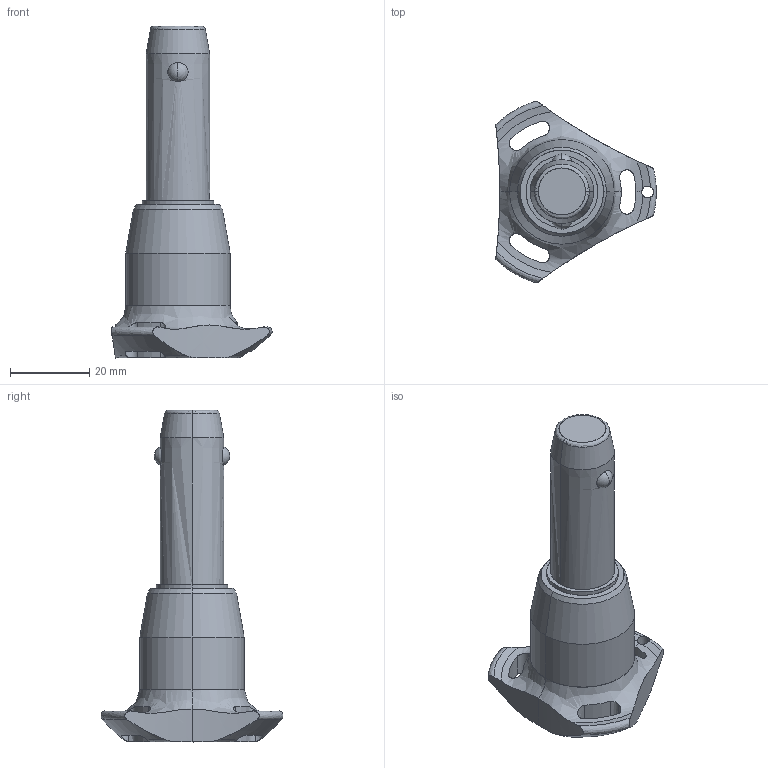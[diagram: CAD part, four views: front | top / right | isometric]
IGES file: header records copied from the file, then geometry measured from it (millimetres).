
Start section: SolidWorks IGES file using analytic representation for surfaces
Global section: file name: C:\Users\ianosborn\Desktop\QR1734_v2\QR1734_v2_20251113_IGES\QR1734.M16-030-S.igs; native system: SolidWorks 2019; preprocessor: SolidWorks 2019; author: IanOsborn; date: 251112.143426; units: millimetre
Bounding box: 40.5 x 45.88 x 83.7 mm (x, y, z)
Surface area: 8166.5 mm2 (no closed solid volume)
Topology: 0 solids, 0 shells, 65 faces, 1379 edges, 1375 vertices
Faces by surface type: revolution 50, bspline 15
